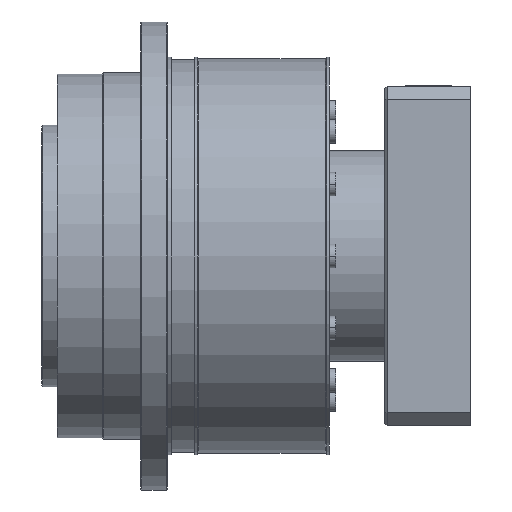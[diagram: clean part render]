
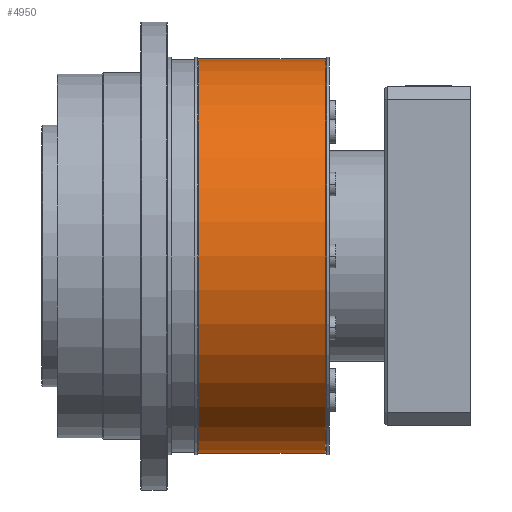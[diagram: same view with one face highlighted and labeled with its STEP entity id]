
A CAD part, left-side view. The second image highlights one B-rep face of the part: STEP entity #4950.
In plain terms, the highlighted cylindrical face has radius 75.5 mm (diameter 151 mm), a partial arc.
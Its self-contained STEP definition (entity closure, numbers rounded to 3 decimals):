
#2170 = EDGE_CURVE ( 'NONE', #15935, #10098, #18435, .T. ) ;
#2217 = ORIENTED_EDGE ( 'NONE', *, *, #2170, .F. ) ;
#2436 = DIRECTION ( 'NONE',  ( 0., -1., 0. ) ) ;
#4419 = LINE ( 'NONE', #16885, #21031 ) ;
#4778 = ORIENTED_EDGE ( 'NONE', *, *, #21919, .T. ) ;
#4950 = ADVANCED_FACE ( 'NONE', ( #25563 ), #20103, .T. ) ;
#5141 = CARTESIAN_POINT ( 'NONE',  ( -34.29, -17.441, 0. ) ) ;
#5454 = EDGE_LOOP ( 'NONE', ( #19853, #4778, #12730, #2217 ) ) ;
#5593 = CARTESIAN_POINT ( 'NONE',  ( -34.29, -17.441, 75.5 ) ) ;
#5958 = VERTEX_POINT ( 'NONE', #13931 ) ;
#6208 = VECTOR ( 'NONE', #12350, 1000. ) ;
#8718 = DIRECTION ( 'NONE',  ( 0., -1., 0. ) ) ;
#9147 = DIRECTION ( 'NONE',  ( 0., -1., 0. ) ) ;
#9333 = CIRCLE ( 'NONE', #21429, 75.5 ) ;
#10098 = VERTEX_POINT ( 'NONE', #20494 ) ;
#10485 = AXIS2_PLACEMENT_3D ( 'NONE', #18668, #20823, #25216 ) ;
#12122 = CARTESIAN_POINT ( 'NONE',  ( -34.29, 31.059, -75.5 ) ) ;
#12234 = DIRECTION ( 'NONE',  ( 0., 0., -1. ) ) ;
#12350 = DIRECTION ( 'NONE',  ( 0., -1., 0. ) ) ;
#12730 = ORIENTED_EDGE ( 'NONE', *, *, #13357, .T. ) ;
#13357 = EDGE_CURVE ( 'NONE', #19753, #10098, #24176, .T. ) ;
#13837 = AXIS2_PLACEMENT_3D ( 'NONE', #5141, #9147, #17103 ) ;
#13931 = CARTESIAN_POINT ( 'NONE',  ( -34.29, 31.059, 75.5 ) ) ;
#14680 = CARTESIAN_POINT ( 'NONE',  ( -34.29, -40.141, -75.5 ) ) ;
#15935 = VERTEX_POINT ( 'NONE', #5593 ) ;
#16885 = CARTESIAN_POINT ( 'NONE',  ( -34.29, -40.141, 75.5 ) ) ;
#17103 = DIRECTION ( 'NONE',  ( 0., 0., -1. ) ) ;
#18435 = CIRCLE ( 'NONE', #13837, 75.5 ) ;
#18668 = CARTESIAN_POINT ( 'NONE',  ( -34.29, -40.141, 0. ) ) ;
#18676 = CARTESIAN_POINT ( 'NONE',  ( -34.29, 31.059, 0. ) ) ;
#19753 = VERTEX_POINT ( 'NONE', #12122 ) ;
#19853 = ORIENTED_EDGE ( 'NONE', *, *, #23050, .F. ) ;
#20103 = CYLINDRICAL_SURFACE ( 'NONE', #10485, 75.5 ) ;
#20494 = CARTESIAN_POINT ( 'NONE',  ( -34.29, -17.441, -75.5 ) ) ;
#20823 = DIRECTION ( 'NONE',  ( 0., -1., 0. ) ) ;
#21031 = VECTOR ( 'NONE', #8718, 1000. ) ;
#21429 = AXIS2_PLACEMENT_3D ( 'NONE', #18676, #2436, #12234 ) ;
#21919 = EDGE_CURVE ( 'NONE', #5958, #19753, #9333, .T. ) ;
#23050 = EDGE_CURVE ( 'NONE', #5958, #15935, #4419, .T. ) ;
#24176 = LINE ( 'NONE', #14680, #6208 ) ;
#25216 = DIRECTION ( 'NONE',  ( 0., 0., -1. ) ) ;
#25563 = FACE_OUTER_BOUND ( 'NONE', #5454, .T. ) ;
